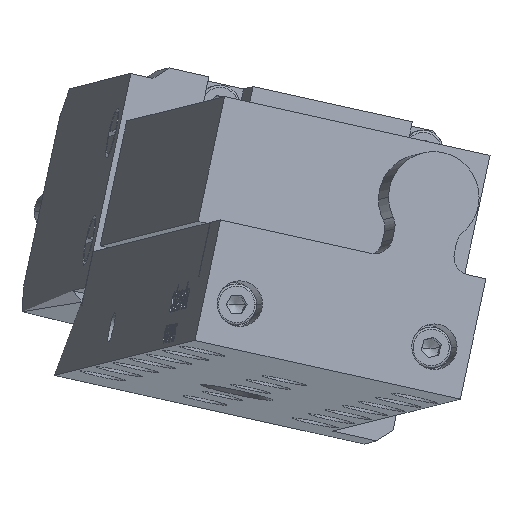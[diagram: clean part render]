
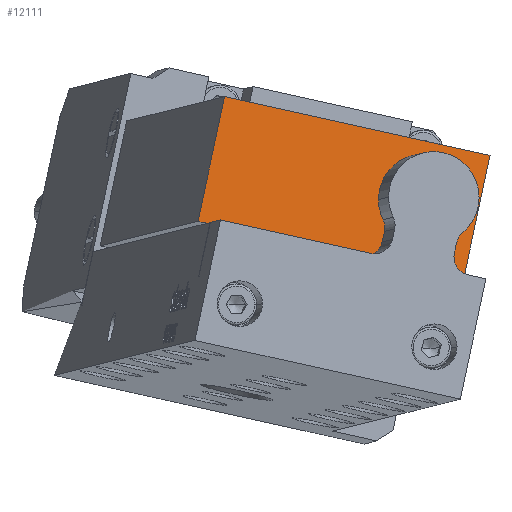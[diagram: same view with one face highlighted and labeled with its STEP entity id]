
A CAD part, left-side view. The second image highlights one B-rep face of the part: STEP entity #12111.
In plain terms, the highlighted planar face has unit normal (-0.99, -0.139, 0.035).
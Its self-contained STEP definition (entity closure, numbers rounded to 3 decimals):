
#2706 = VERTEX_POINT ( 'NONE', #20305 ) ;
#2708 = EDGE_CURVE ( 'NONE', #2709, #2706, #20304, .T. ) ;
#2709 = VERTEX_POINT ( 'NONE', #20300 ) ;
#12111 = ADVANCED_FACE ( 'NONE', ( #37556, #37551 ), #37550, .T. ) ;
#12112 = EDGE_LOOP ( 'NONE', ( #12113, #12114 ) ) ;
#12113 = ORIENTED_EDGE ( 'NONE', *, *, #18198, .F. ) ;
#12114 = ORIENTED_EDGE ( 'NONE', *, *, #12115, .F. ) ;
#12115 = EDGE_CURVE ( 'NONE', #18200, #18199, #37630, .T. ) ;
#12116 = EDGE_LOOP ( 'NONE', ( #12117, #12120, #12123, #12125 ) ) ;
#12117 = ORIENTED_EDGE ( 'NONE', *, *, #12118, .T. ) ;
#12118 = EDGE_CURVE ( 'NONE', #2706, #12119, #37625, .T. ) ;
#12119 = VERTEX_POINT ( 'NONE', #37621 ) ;
#12120 = ORIENTED_EDGE ( 'NONE', *, *, #12121, .F. ) ;
#12121 = EDGE_CURVE ( 'NONE', #12122, #12119, #37620, .T. ) ;
#12122 = VERTEX_POINT ( 'NONE', #37616 ) ;
#12123 = ORIENTED_EDGE ( 'NONE', *, *, #12124, .F. ) ;
#12124 = EDGE_CURVE ( 'NONE', #2709, #12122, #37615, .T. ) ;
#12125 = ORIENTED_EDGE ( 'NONE', *, *, #2708, .T. ) ;
#18198 = EDGE_CURVE ( 'NONE', #18199, #18200, #51088, .T. ) ;
#18199 = VERTEX_POINT ( 'NONE', #51083 ) ;
#18200 = VERTEX_POINT ( 'NONE', #51082 ) ;
#20300 = CARTESIAN_POINT ( 'NONE',  ( -19.038, -7.902, 20.146 ) ) ;
#20301 = DIRECTION ( 'NONE',  ( 0.063, -0.208, 0.976 ) ) ;
#20302 = VECTOR ( 'NONE', #20301, 1000. ) ;
#20303 = CARTESIAN_POINT ( 'NONE',  ( -19.038, -7.902, 20.146 ) ) ;
#20304 = LINE ( 'NONE', #20303, #20302 ) ;
#20305 = CARTESIAN_POINT ( 'NONE',  ( -18.149, -10.815, 33.811 ) ) ;
#37546 = DIRECTION ( 'NONE',  ( 0.139, -0.99, 0. ) ) ;
#37547 = DIRECTION ( 'NONE',  ( -0.99, -0.139, 0.035 ) ) ;
#37548 = CARTESIAN_POINT ( 'NONE',  ( -22.005, 18.231, 40.252 ) ) ;
#37549 = AXIS2_PLACEMENT_3D ( 'NONE', #37548, #37547, #37546 ) ;
#37550 = PLANE ( 'NONE',  #37549 ) ;
#37551 = FACE_OUTER_BOUND ( 'NONE', #12116, .T. ) ;
#37556 = FACE_BOUND ( 'NONE', #12112, .T. ) ;
#37612 = DIRECTION ( 'NONE',  ( -0.129, 0.968, 0.215 ) ) ;
#37613 = VECTOR ( 'NONE', #37612, 1000. ) ;
#37614 = CARTESIAN_POINT ( 'NONE',  ( -19.038, -7.902, 20.146 ) ) ;
#37615 = LINE ( 'NONE', #37614, #37613 ) ;
#37616 = CARTESIAN_POINT ( 'NONE',  ( -22.893, 21.143, 26.587 ) ) ;
#37617 = DIRECTION ( 'NONE',  ( 0.063, -0.208, 0.976 ) ) ;
#37618 = VECTOR ( 'NONE', #37617, 1000. ) ;
#37619 = CARTESIAN_POINT ( 'NONE',  ( -22.893, 21.143, 26.587 ) ) ;
#37620 = LINE ( 'NONE', #37619, #37618 ) ;
#37621 = CARTESIAN_POINT ( 'NONE',  ( -22.005, 18.231, 40.252 ) ) ;
#37622 = DIRECTION ( 'NONE',  ( -0.129, 0.968, 0.215 ) ) ;
#37623 = VECTOR ( 'NONE', #37622, 1000. ) ;
#37624 = CARTESIAN_POINT ( 'NONE',  ( -18.149, -10.815, 33.811 ) ) ;
#37625 = LINE ( 'NONE', #37624, #37623 ) ;
#37626 = DIRECTION ( 'NONE',  ( 0.139, -0.99, 0. ) ) ;
#37627 = DIRECTION ( 'NONE',  ( -0.99, -0.139, 0.035 ) ) ;
#37628 = CARTESIAN_POINT ( 'NONE',  ( -19.557, -2.097, 28.589 ) ) ;
#37629 = AXIS2_PLACEMENT_3D ( 'NONE', #37628, #37627, #37626 ) ;
#37630 = CIRCLE ( 'NONE', #37629, 2.65 ) ;
#51082 = CARTESIAN_POINT ( 'NONE',  ( -19.926, 0.527, 28.589 ) ) ;
#51083 = CARTESIAN_POINT ( 'NONE',  ( -19.189, -4.721, 28.589 ) ) ;
#51084 = DIRECTION ( 'NONE',  ( 0.139, -0.99, 0. ) ) ;
#51085 = DIRECTION ( 'NONE',  ( -0.99, -0.139, 0.035 ) ) ;
#51086 = CARTESIAN_POINT ( 'NONE',  ( -19.557, -2.097, 28.589 ) ) ;
#51087 = AXIS2_PLACEMENT_3D ( 'NONE', #51086, #51085, #51084 ) ;
#51088 = CIRCLE ( 'NONE', #51087, 2.65 ) ;
